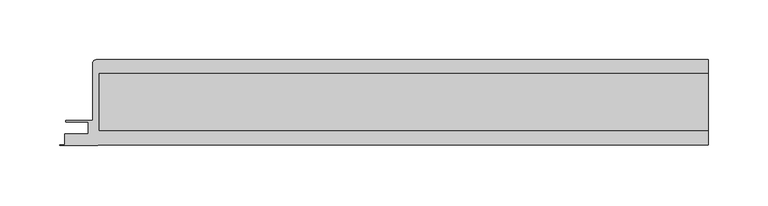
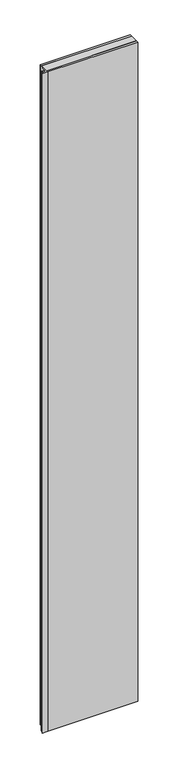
"""IFC4 building model written with IfcOpenShell, lengths in millimetres: plate geometry, Walls_External-Walls_Danpal_Danpatherm-K7-with-NM-Frame : Walls_External-Walls_Danpal_Danpatherm-K7-with-NM-Frame."""

from ifc_helpers import new_model, si_unit, point, frame, frame_2d, origin, place, context, project, spatial, polyline, circle_curve, trimmed, segment, composite_curve, outline, extrude, source, transform, mapped, element, save


def plate_c6edde3f(model_context):
    return source(origin(), model_context, "Body", "SweptSolid", [
        extrude(outline(polyline([(-252.4471398, 60.3432727), (258.0435188, 60.3432727), (258.0435188, 12.7999917), (-252.4471398, 12.7999917), (-252.4471398, 60.3432727)])), frame((0.0, 0.0, -22.0), z_axis=(0.0, 0.0, 1.0), x_axis=(1.0, 0.0, 0.0)), (0.0, 0.0, 1.0), 3970.063098),
        extrude(outline(composite_curve([segment(polyline([(-254.2006099, 72.343285), (258.0435188, 72.343285), (258.0435188, 60.3432727), (-252.4471398, 60.3432727), (-252.4471398, 12.7999917), (258.0435188, 12.7999917), (258.0435188, 0.8), (-253.7865102, 0.8), (-253.7865102, 0.0), (-285.6865102, 0.0), (-285.6865102, 0.8), (-281.4865102, 0.8), (-281.4865102, 9.7656785), (-261.6567504, 9.7656785), (-261.6567504, 19.6715177), (-280.612896, 19.6715177), (-280.612896, 20.9715623), (-258.0435188, 20.9715623), (-258.0435188, 68.5003761)]), True, "CONTINUOUS"), segment(trimmed(circle_curve(frame_2d((-254.2006099, 68.5003761)), 3.8429089), [point((-258.0435188, 68.5003761))], [point((-254.2006099, 72.343285))], False, "CARTESIAN"), True, "CONTINUOUS")], self_intersect=False)), frame((0.0, 0.0, -22.0), z_axis=(0.0, 0.0, 1.0), x_axis=(1.0, 0.0, 0.0)), (0.0, 0.0, 1.0), 3970.063098),
    ])


if __name__ == "__main__":
    model = new_model("IFC4")
    model_context = context("Model", 3, world=origin())
    ifc_project = project(units=[si_unit("LENGTHUNIT", "METRE", prefix="MILLI")], contexts=[model_context])
    site = spatial("IfcSite", under=ifc_project)
    building = spatial("IfcBuilding", under=site)
    placement = place(None, origin())
    plate_shape = plate_c6edde3f(model_context)
    element("IfcPlate", 1, ObjectType="Walls_External-Walls_Danpal_Danpatherm-K7-with-NM-Frame : Walls_External-Walls_Danpal_Danpatherm-K7-with-NM-Frame", at=placement, inside=building, context=model_context, shape_type="MappedRepresentation", body=[
        mapped(plate_shape, transform((0.0, 0.0, 0.0), x_axis=(1.0, 0.0, 0.0), y_axis=(0.0, 1.0, 0.0), z_axis=(0.0, 0.0, 1.0))),
    ])
    save(model, "model.ifc")
